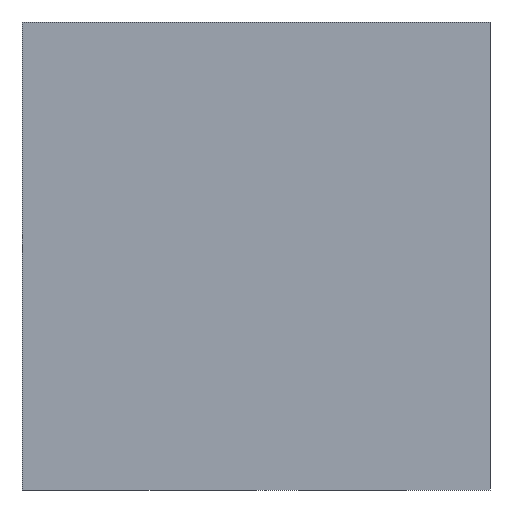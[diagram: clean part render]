
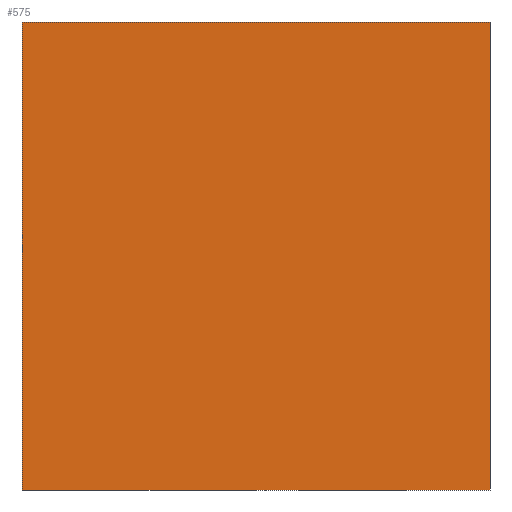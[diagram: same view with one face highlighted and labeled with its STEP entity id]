
A CAD part, left-side view. The second image highlights one B-rep face of the part: STEP entity #575.
In plain terms, the highlighted planar face has unit normal (-1, 0, 0).
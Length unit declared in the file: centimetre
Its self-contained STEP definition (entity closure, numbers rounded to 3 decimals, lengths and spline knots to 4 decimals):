
#19 = LINE ( 'NONE', #455, #354 ) ;
#71 = VERTEX_POINT ( 'NONE', #611 ) ;
#99 = ORIENTED_EDGE ( 'NONE', *, *, #270, .F. ) ;
#104 = CARTESIAN_POINT ( 'NONE',  ( 0., 1000., 1000. ) ) ;
#136 = DIRECTION ( 'NONE',  ( 0., -1., 0. ) ) ;
#209 = CARTESIAN_POINT ( 'NONE',  ( 0., 0., 1000. ) ) ;
#217 = CARTESIAN_POINT ( 'NONE',  ( 0., 1000., 0. ) ) ;
#224 = EDGE_CURVE ( 'NONE', #669, #71, #613, .T. ) ;
#270 = EDGE_CURVE ( 'NONE', #376, #321, #19, .T. ) ;
#275 = LINE ( 'NONE', #209, #686 ) ;
#277 = VECTOR ( 'NONE', #136, 100. ) ;
#310 = EDGE_LOOP ( 'NONE', ( #556, #419, #99, #426 ) ) ;
#321 = VERTEX_POINT ( 'NONE', #498 ) ;
#324 = DIRECTION ( 'NONE',  ( 0., 0., -1. ) ) ;
#327 = FACE_OUTER_BOUND ( 'NONE', #310, .T. ) ;
#354 = VECTOR ( 'NONE', #446, 100. ) ;
#376 = VERTEX_POINT ( 'NONE', #381 ) ;
#381 = CARTESIAN_POINT ( 'NONE',  ( 0., 1000., 1000. ) ) ;
#387 = DIRECTION ( 'NONE',  ( 1., 0., 0. ) ) ;
#394 = DIRECTION ( 'NONE',  ( 0., 0., -1. ) ) ;
#405 = EDGE_CURVE ( 'NONE', #321, #71, #275, .T. ) ;
#419 = ORIENTED_EDGE ( 'NONE', *, *, #405, .F. ) ;
#426 = ORIENTED_EDGE ( 'NONE', *, *, #468, .T. ) ;
#446 = DIRECTION ( 'NONE',  ( 0., -1., 0. ) ) ;
#455 = CARTESIAN_POINT ( 'NONE',  ( 0., 1000., 1000. ) ) ;
#468 = EDGE_CURVE ( 'NONE', #376, #669, #644, .T. ) ;
#474 = VECTOR ( 'NONE', #324, 100. ) ;
#498 = CARTESIAN_POINT ( 'NONE',  ( 0., 0., 1000. ) ) ;
#541 = CARTESIAN_POINT ( 'NONE',  ( 0., 1000., 1000. ) ) ;
#549 = PLANE ( 'NONE',  #578 ) ;
#556 = ORIENTED_EDGE ( 'NONE', *, *, #224, .T. ) ;
#575 = ADVANCED_FACE ( 'NONE', ( #327 ), #549, .F. ) ;
#578 = AXIS2_PLACEMENT_3D ( 'NONE', #541, #387, #394 ) ;
#588 = DIRECTION ( 'NONE',  ( 0., 0., -1. ) ) ;
#611 = CARTESIAN_POINT ( 'NONE',  ( 0., 0., 0. ) ) ;
#613 = LINE ( 'NONE', #620, #277 ) ;
#620 = CARTESIAN_POINT ( 'NONE',  ( 0., 1000., 0. ) ) ;
#644 = LINE ( 'NONE', #104, #474 ) ;
#669 = VERTEX_POINT ( 'NONE', #217 ) ;
#686 = VECTOR ( 'NONE', #588, 100. ) ;
